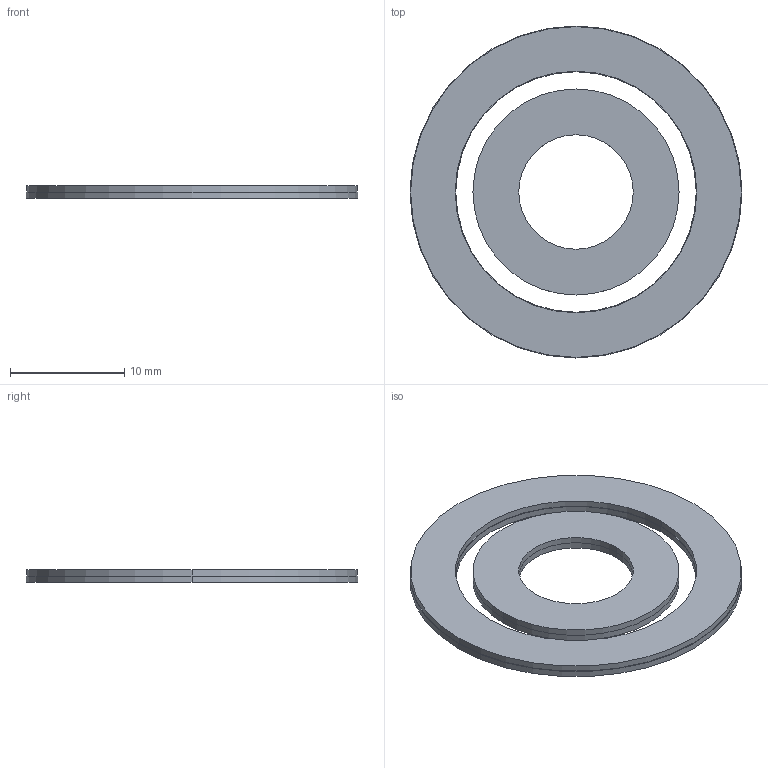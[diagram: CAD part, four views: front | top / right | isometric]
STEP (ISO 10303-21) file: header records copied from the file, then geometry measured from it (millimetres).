
FILE_DESCRIPTION((''),'2;1');
FILE_NAME('鎢攫_A_1_ASM','2026-09-02T',('guxinfeng'),(''),'PRO/ENGINEER BY PARAMETRIC TECHNOLOGY CORPORATION, 2012480','PRO/ENGINEER BY PARAMETRIC TECHNOLOGY CORPORATION, 2012480','');
FILE_SCHEMA(('CONFIG_CONTROL_DESIGN'));
Length unit declared in the file: millimetre
Products named in the file (9): 棠_____1; 婥_____1; 00_2_1_1_1_1_1_1; 00_3_1_1_1_1_1_1; ASM0003_ASM_1_ASM_1_ASM_1_ASM_1_ASM; P8N-21-29-1_1-43_0001_A-1044185_ASM; P8N-21-29-1_1-43棠遠_-1044217_A_1_ASM; M2G-10-18-1_1-28_ASM_1_ASM_1_AS_ASM; 码盘_A_1_ASM
Assembly tree (8 placements, depth 6):
  码盘_A_1_ASM
    M2G-10-18-1_1-28_ASM_1_ASM_1_AS_ASM
      棠_____1
      婥_____1
      P8N-21-29-1_1-43棠遠_-1044217_A_1_ASM
        P8N-21-29-1_1-43_0001_A-1044185_ASM
          ASM0003_ASM_1_ASM_1_ASM_1_ASM_1_ASM
            00_2_1_1_1_1_1_1
            00_3_1_1_1_1_1_1
Bounding box: 29 x 29 x 1.1 mm (x, y, z)
Volume: 534.8 mm3; surface area: 2214.2 mm2
Topology: 4 solids, 4 shells, 24 faces, 56 edges, 40 vertices
Faces by surface type: cylinder 16, plane 8
Entity records: 1185 total; most frequent: DIRECTION 192, CARTESIAN_POINT 144, ORIENTED_EDGE 112, AXIS2_PLACEMENT_3D 88, EDGE_CURVE 56, VERTEX_POINT 40, CIRCLE 40, EDGE_LOOP 32
